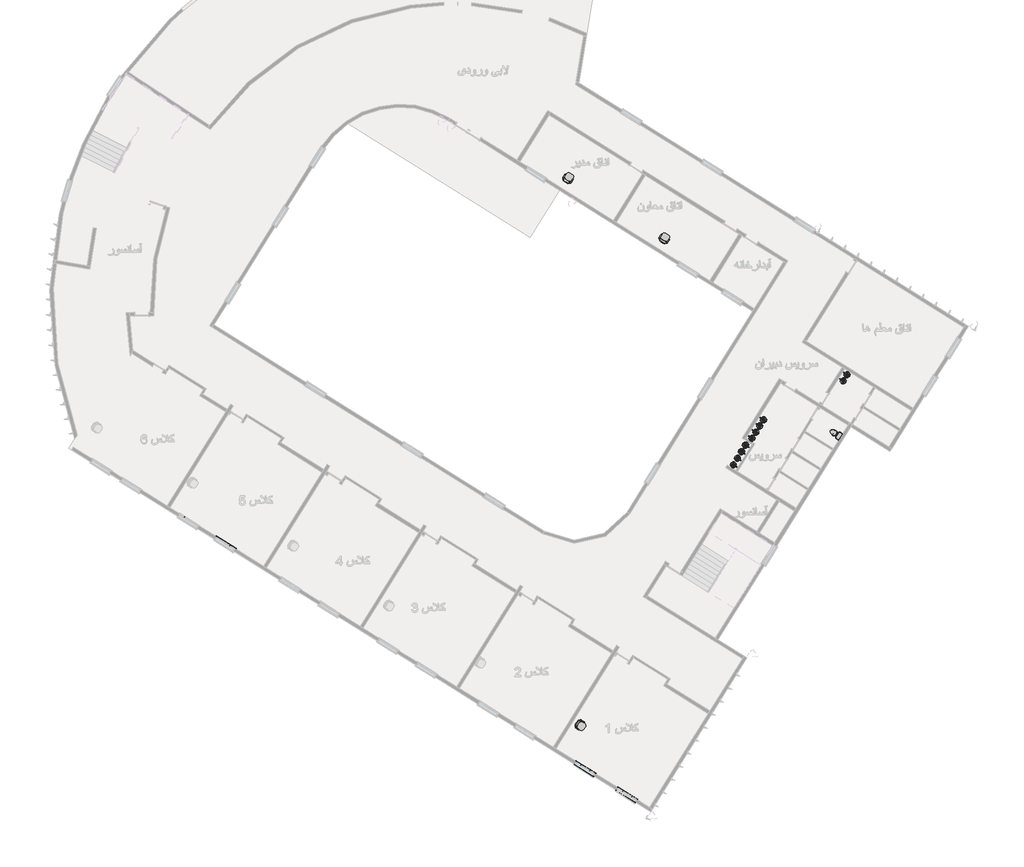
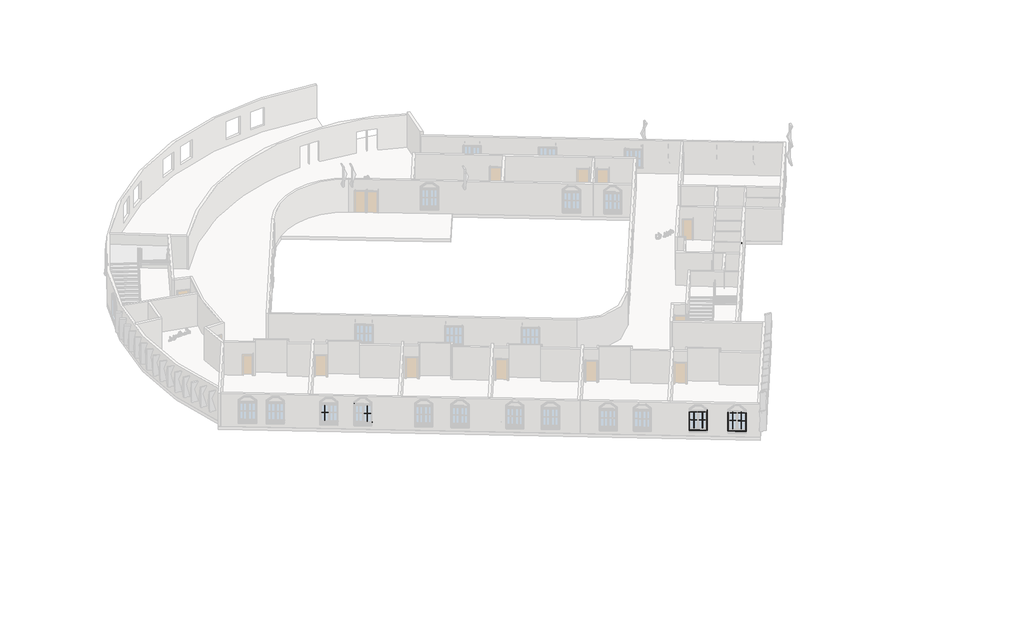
# One storey, part 6 of 12: 11 flow terminals, 11 proxies, 3 furniture elements.
"""IFC4 building model written with IfcOpenShell, lengths in millimetres."""

from ifc_helpers import new_model, si_unit, origin, place, context, project, spatial, transform, mapped, element, save
from components import m_muntin_pattern_2x2_m_muntin_pattern_2x2_d2d4b859, m_muntin_pattern_2x2_m_muntin_pattern_2x2_f3921bb5, m_trim_window_exterior_flat_with_sill_136e302d, m_trim_window_interior_flat_picture_frame_c6c50358, ada_tank_toilet_4267_toilet_domestic_3d_1f2812d0, ada_tank_toilet_4267_toilet_domestic_3d_e2a5b10f, sink_bathroom_modern_shelf_2_sink_bathroom_modern_shelf_2_e763d6b9, chair_executive_chair_executive_328c2b5c

model = new_model("IFC4")

# Units and contexts
model_context = context("Model", 3, world=origin())
ifc_project = project(units=[si_unit("LENGTHUNIT", "METRE", prefix="MILLI")], contexts=[model_context])

# Site, building, storey
site = spatial("IfcSite", under=ifc_project)
building = spatial("IfcBuilding", under=site)
storey = spatial("IfcBuildingStorey", under=building, Name="\u200fهمکف", Elevation=0.0)

# Proxies
placement = place(None, origin())
m_muntin_pattern_2x2_m_muntin_pattern_2x2_shape = m_muntin_pattern_2x2_m_muntin_pattern_2x2_d2d4b859(model_context)
element("IfcBuildingElementProxy", 1, Name="M_Muntin Pattern_2x2 : M_Muntin Pattern_2x2", ObjectType="M_Muntin Pattern_2x2 : M_Muntin Pattern_2x2", at=placement, inside=storey, context=model_context, shape_type="MappedRepresentation", body=[
    mapped(m_muntin_pattern_2x2_m_muntin_pattern_2x2_shape, transform((11830.5551888, -48437.8556236, 669.85), x_axis=(0.8480480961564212, -0.5299192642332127, 0.0), y_axis=(0.5299192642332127, 0.8480480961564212, 0.0), z_axis=(0.0, 0.0, 1.0))),
])
element("IfcBuildingElementProxy", 2, Name="M_Muntin Pattern_2x2 : M_Muntin Pattern_2x2", ObjectType="M_Muntin Pattern_2x2 : M_Muntin Pattern_2x2", at=placement, inside=storey, context=model_context, shape_type="MappedRepresentation", body=[
    mapped(m_muntin_pattern_2x2_m_muntin_pattern_2x2_shape, transform((37611.2173119, -64547.4012563, 669.85), x_axis=(0.8480480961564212, -0.5299192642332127, 0.0), y_axis=(0.5299192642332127, 0.8480480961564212, 0.0), z_axis=(0.0, 0.0, 1.0))),
])
element("IfcBuildingElementProxy", 3, Name="M_Muntin Pattern_2x2 : M_Muntin Pattern_2x2", ObjectType="M_Muntin Pattern_2x2 : M_Muntin Pattern_2x2", at=placement, inside=storey, context=model_context, shape_type="MappedRepresentation", body=[
    mapped(m_muntin_pattern_2x2_m_muntin_pattern_2x2_shape, transform((40324.9712196, -66243.1429019, 669.85), x_axis=(0.8480480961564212, -0.5299192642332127, 0.0), y_axis=(0.5299192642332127, 0.8480480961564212, 0.0), z_axis=(0.0, 0.0, 1.0))),
])
m_muntin_pattern_2x2_m_muntin_pattern_2x2_2_shape = m_muntin_pattern_2x2_m_muntin_pattern_2x2_f3921bb5(model_context)
element("IfcBuildingElementProxy", 4, Name="M_Muntin Pattern_2x2 : M_Muntin Pattern_2x2", ObjectType="M_Muntin Pattern_2x2 : M_Muntin Pattern_2x2", at=placement, inside=storey, context=model_context, shape_type="MappedRepresentation", body=[
    mapped(m_muntin_pattern_2x2_m_muntin_pattern_2x2_2_shape, transform((14796.0309726, -50290.8905548, 669.85), x_axis=(-0.8480480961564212, 0.5299192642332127, 0.0), y_axis=(-0.5299192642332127, -0.8480480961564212, 0.0), z_axis=(0.0, 0.0, 1.0))),
])
element("IfcBuildingElementProxy", 5, Name="M_Muntin Pattern_2x2 : M_Muntin Pattern_2x2", ObjectType="M_Muntin Pattern_2x2 : M_Muntin Pattern_2x2", at=placement, inside=storey, context=model_context, shape_type="MappedRepresentation", body=[
    mapped(m_muntin_pattern_2x2_m_muntin_pattern_2x2_2_shape, transform((38202.1584265, -64916.6622476, 669.85), x_axis=(-0.8480480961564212, 0.5299192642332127, 0.0), y_axis=(-0.5299192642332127, -0.8480480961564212, 0.0), z_axis=(0.0, 0.0, 1.0))),
])
element("IfcBuildingElementProxy", 6, Name="M_Muntin Pattern_2x2 : M_Muntin Pattern_2x2", ObjectType="M_Muntin Pattern_2x2 : M_Muntin Pattern_2x2", at=placement, inside=storey, context=model_context, shape_type="MappedRepresentation", body=[
    mapped(m_muntin_pattern_2x2_m_muntin_pattern_2x2_2_shape, transform((40915.9123342, -66612.4038932, 669.85), x_axis=(-0.8480480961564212, 0.5299192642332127, 0.0), y_axis=(-0.5299192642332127, -0.8480480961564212, 0.0), z_axis=(0.0, 0.0, 1.0))),
])
m_trim_window_exterior_flat_with_sill_shape = m_trim_window_exterior_flat_with_sill_136e302d(model_context)
element("IfcBuildingElementProxy", 7, Name="M_Trim-Window-Exterior-Flat : with Sill", ObjectType="M_Trim-Window-Exterior-Flat : with Sill", at=placement, inside=storey, context=model_context, shape_type="MappedRepresentation", body=[
    mapped(m_trim_window_exterior_flat_with_sill_shape, transform((14505.6078963, -50098.182401, 2400.0), x_axis=(-0.8480480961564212, 0.5299192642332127, 0.0), y_axis=(0.0, 0.0, 1.0), z_axis=(0.5299192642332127, 0.8480480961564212, 0.0))),
])
element("IfcBuildingElementProxy", 8, Name="M_Trim-Window-Exterior-Flat : with Sill", ObjectType="M_Trim-Window-Exterior-Flat : with Sill", at=placement, inside=storey, context=model_context, shape_type="MappedRepresentation", body=[
    mapped(m_trim_window_exterior_flat_with_sill_shape, transform((37911.7353502, -64723.9540939, 2400.0), x_axis=(-0.8480480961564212, 0.5299192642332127, 0.0), y_axis=(0.0, 0.0, 1.0), z_axis=(0.5299192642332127, 0.8480480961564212, 0.0))),
])
element("IfcBuildingElementProxy", 9, Name="M_Trim-Window-Exterior-Flat : with Sill", ObjectType="M_Trim-Window-Exterior-Flat : with Sill", at=placement, inside=storey, context=model_context, shape_type="MappedRepresentation", body=[
    mapped(m_trim_window_exterior_flat_with_sill_shape, transform((40625.4892579, -66419.6957394, 2400.0), x_axis=(-0.8480480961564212, 0.5299192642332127, 0.0), y_axis=(0.0, 0.0, 1.0), z_axis=(0.5299192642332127, 0.8480480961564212, 0.0))),
])
m_trim_window_interior_flat_picture_frame_shape = m_trim_window_interior_flat_picture_frame_c6c50358(model_context)
element("IfcBuildingElementProxy", 10, Name="M_Trim-Window-Interior-Flat : Picture Frame", ObjectType="M_Trim-Window-Interior-Flat : Picture Frame", at=placement, inside=storey, context=model_context, shape_type="MappedRepresentation", body=[
    mapped(m_trim_window_interior_flat_picture_frame_shape, transform((37805.7514974, -64893.5637131, 2400.0), x_axis=(0.8480480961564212, -0.5299192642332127, 0.0), y_axis=(0.0, 0.0, 1.0), z_axis=(-0.5299192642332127, -0.8480480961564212, 0.0))),
])
element("IfcBuildingElementProxy", 11, Name="M_Trim-Window-Interior-Flat : Picture Frame", ObjectType="M_Trim-Window-Interior-Flat : Picture Frame", at=placement, inside=storey, context=model_context, shape_type="MappedRepresentation", body=[
    mapped(m_trim_window_interior_flat_picture_frame_shape, transform((40519.5054051, -66589.3053586, 2400.0), x_axis=(0.8480480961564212, -0.5299192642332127, 0.0), y_axis=(0.0, 0.0, 1.0), z_axis=(-0.5299192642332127, -0.8480480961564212, 0.0))),
])

# Flow terminals
ada_tank_toilet_4267_toilet_domestic_3d_shape = ada_tank_toilet_4267_toilet_domestic_3d_1f2812d0(model_context)
ada_tank_toilet_4267_toilet_domestic_3d_2_shape = ada_tank_toilet_4267_toilet_domestic_3d_e2a5b10f(model_context)
element("IfcFlowTerminal", 12, ObjectType="ADA_Tank_Toilet_4267 : Toilet-Domestic-3D", at=placement, inside=storey, context=model_context, shape_type="MappedRepresentation", body=[
    mapped(ada_tank_toilet_4267_toilet_domestic_3d_shape, transform((54083.4000278, -42974.8063318, 0.0), x_axis=(-0.5299192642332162, -0.8480480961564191, 0.0), y_axis=(0.8480480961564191, -0.5299192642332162, 0.0), z_axis=(0.0, 0.0, 1.0))),
    mapped(ada_tank_toilet_4267_toilet_domestic_3d_2_shape, transform((54083.4000278, -42974.8063318, 0.0), x_axis=(-0.5299192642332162, -0.8480480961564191, 0.0), y_axis=(0.8480480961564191, -0.5299192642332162, 0.0), z_axis=(0.0, 0.0, 1.0))),
])
sink_bathroom_modern_shelf_2_sink_bathroom_modern_shelf_2_shape = sink_bathroom_modern_shelf_2_sink_bathroom_modern_shelf_2_e763d6b9(model_context)
element("IfcFlowTerminal", 13, ObjectType="Sink Bathroom Modern - Shelf (2) : Sink Bathroom Modern - Shelf (2)", at=placement, inside=storey, context=model_context, shape_type="MappedRepresentation", body=[
    mapped(sink_bathroom_modern_shelf_2_sink_bathroom_modern_shelf_2_shape, transform((48423.6751802, -43152.9748104, 0.0), x_axis=(0.5299192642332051, 0.8480480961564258, 0.0), y_axis=(-0.8480480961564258, 0.5299192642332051, 0.0), z_axis=(0.0, 0.0, 1.0))),
])
element("IfcFlowTerminal", 14, ObjectType="Sink Bathroom Modern - Shelf (2) : Sink Bathroom Modern - Shelf (2)", at=placement, inside=storey, context=model_context, shape_type="MappedRepresentation", body=[
    mapped(sink_bathroom_modern_shelf_2_sink_bathroom_modern_shelf_2_shape, transform((48672.4432724, -42754.8626427, 0.0), x_axis=(0.5299192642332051, 0.8480480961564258, 0.0), y_axis=(-0.8480480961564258, 0.5299192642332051, 0.0), z_axis=(0.0, 0.0, 1.0))),
])
element("IfcFlowTerminal", 15, ObjectType="Sink Bathroom Modern - Shelf (2) : Sink Bathroom Modern - Shelf (2)", at=placement, inside=storey, context=model_context, shape_type="MappedRepresentation", body=[
    mapped(sink_bathroom_modern_shelf_2_sink_bathroom_modern_shelf_2_shape, transform((48921.5057201, -42356.2794078, 0.0), x_axis=(0.5299192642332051, 0.8480480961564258, 0.0), y_axis=(-0.8480480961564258, 0.5299192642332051, 0.0), z_axis=(0.0, 0.0, 1.0))),
])
element("IfcFlowTerminal", 16, ObjectType="Sink Bathroom Modern - Shelf (2) : Sink Bathroom Modern - Shelf (2)", at=placement, inside=storey, context=model_context, shape_type="MappedRepresentation", body=[
    mapped(sink_bathroom_modern_shelf_2_sink_bathroom_modern_shelf_2_shape, transform((49170.5681678, -41957.6961729, 0.0), x_axis=(0.5299192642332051, 0.8480480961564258, 0.0), y_axis=(-0.8480480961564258, 0.5299192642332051, 0.0), z_axis=(0.0, 0.0, 1.0))),
])
element("IfcFlowTerminal", 17, ObjectType="Sink Bathroom Modern - Shelf (2) : Sink Bathroom Modern - Shelf (2)", at=placement, inside=storey, context=model_context, shape_type="MappedRepresentation", body=[
    mapped(sink_bathroom_modern_shelf_2_sink_bathroom_modern_shelf_2_shape, transform((48603.6166127, -43920.0987445, 0.0), x_axis=(-0.5299192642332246, -0.8480480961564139, 0.0), y_axis=(0.8480480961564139, -0.5299192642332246, 0.0), z_axis=(0.0, 0.0, 1.0))),
])
element("IfcFlowTerminal", 18, ObjectType="Sink Bathroom Modern - Shelf (2) : Sink Bathroom Modern - Shelf (2)", at=placement, inside=storey, context=model_context, shape_type="MappedRepresentation", body=[
    mapped(sink_bathroom_modern_shelf_2_sink_bathroom_modern_shelf_2_shape, transform((48338.6569806, -44344.1227926, 0.0), x_axis=(-0.5299192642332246, -0.8480480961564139, 0.0), y_axis=(0.8480480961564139, -0.5299192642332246, 0.0), z_axis=(0.0, 0.0, 1.0))),
])
element("IfcFlowTerminal", 19, ObjectType="Sink Bathroom Modern - Shelf (2) : Sink Bathroom Modern - Shelf (2)", at=placement, inside=storey, context=model_context, shape_type="MappedRepresentation", body=[
    mapped(sink_bathroom_modern_shelf_2_sink_bathroom_modern_shelf_2_shape, transform((48073.6973485, -44768.1468407, 0.0), x_axis=(-0.5299192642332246, -0.8480480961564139, 0.0), y_axis=(0.8480480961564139, -0.5299192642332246, 0.0), z_axis=(0.0, 0.0, 1.0))),
])
element("IfcFlowTerminal", 20, ObjectType="Sink Bathroom Modern - Shelf (2) : Sink Bathroom Modern - Shelf (2)", at=placement, inside=storey, context=model_context, shape_type="MappedRepresentation", body=[
    mapped(sink_bathroom_modern_shelf_2_sink_bathroom_modern_shelf_2_shape, transform((47809.069349, -45192.3781158, 0.0), x_axis=(-0.5299192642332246, -0.8480480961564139, 0.0), y_axis=(0.8480480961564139, -0.5299192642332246, 0.0), z_axis=(0.0, 0.0, 1.0))),
])
element("IfcFlowTerminal", 21, ObjectType="Sink Bathroom Modern - Shelf (2) : Sink Bathroom Modern - Shelf (2)", at=placement, inside=storey, context=model_context, shape_type="MappedRepresentation", body=[
    mapped(sink_bathroom_modern_shelf_2_sink_bathroom_modern_shelf_2_shape, transform((54355.292849, -39424.2198016, 0.0), x_axis=(0.5299192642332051, 0.8480480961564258, 0.0), y_axis=(-0.8480480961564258, 0.5299192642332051, 0.0), z_axis=(0.0, 0.0, 1.0))),
])
element("IfcFlowTerminal", 22, ObjectType="Sink Bathroom Modern - Shelf (2) : Sink Bathroom Modern - Shelf (2)", at=placement, inside=storey, context=model_context, shape_type="MappedRepresentation", body=[
    mapped(sink_bathroom_modern_shelf_2_sink_bathroom_modern_shelf_2_shape, transform((54604.3552966, -39025.6365667, 0.0), x_axis=(0.5299192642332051, 0.8480480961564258, 0.0), y_axis=(-0.8480480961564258, 0.5299192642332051, 0.0), z_axis=(0.0, 0.0, 1.0))),
])

# Furniture
chair_executive_chair_executive_shape = chair_executive_chair_executive_328c2b5c(model_context)
element("IfcFurniture", 23, ObjectType="Chair-Executive : Chair-Executive", at=placement, inside=storey, context=model_context, shape_type="MappedRepresentation", body=[
    mapped(chair_executive_chair_executive_shape, transform((42940.9314631, -30199.7598578, -426.539034), x_axis=(0.8384532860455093, -0.5449734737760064, 0.0), y_axis=(0.5449734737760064, 0.8384532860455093, 0.0), z_axis=(0.0, 0.0, 1.0))),
])
element("IfcFurniture", 24, ObjectType="Chair-Executive : Chair-Executive", at=placement, inside=storey, context=model_context, shape_type="MappedRepresentation", body=[
    mapped(chair_executive_chair_executive_shape, transform((36679.1537134, -26286.9668536, -426.539034), x_axis=(0.8384532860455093, -0.5449734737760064, 0.0), y_axis=(0.5449734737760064, 0.8384532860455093, 0.0), z_axis=(0.0, 0.0, 1.0))),
])
element("IfcFurniture", 25, ObjectType="Chair-Executive : Chair-Executive", at=placement, inside=storey, context=model_context, shape_type="MappedRepresentation", body=[
    mapped(chair_executive_chair_executive_shape, transform((37682.2304185, -61889.7741845, -426.539034), x_axis=(-0.5881078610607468, -0.8087825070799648, 0.0), y_axis=(0.8087825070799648, -0.5881078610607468, 0.0), z_axis=(0.0, 0.0, 1.0))),
])

save(model, "model.ifc")
